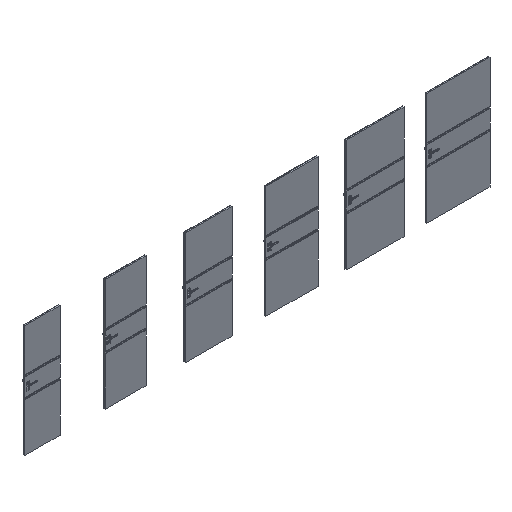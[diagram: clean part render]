
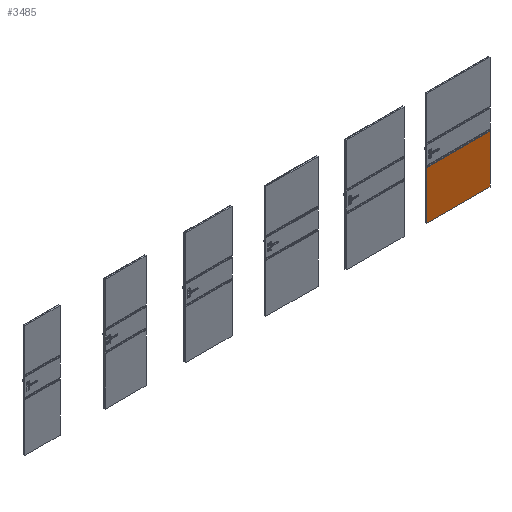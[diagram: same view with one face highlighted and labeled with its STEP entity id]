
A CAD part, isometric view. The second image highlights one B-rep face of the part: STEP entity #3485.
In plain terms, the highlighted planar face has unit normal (0, -1, 0).
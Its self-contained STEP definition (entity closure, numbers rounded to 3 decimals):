
#3485=ADVANCED_FACE('',(#5613),#4602,.F.);
#4602=PLANE('',#26092);
#5613=FACE_OUTER_BOUND('',#7075,.T.);
#7075=EDGE_LOOP('',(#11602,#11603,#11604,#11605));
#11602=ORIENTED_EDGE('',*,*,#19028,.F.);
#11603=ORIENTED_EDGE('',*,*,#19029,.T.);
#11604=ORIENTED_EDGE('',*,*,#19030,.T.);
#11605=ORIENTED_EDGE('',*,*,#19031,.F.);
#16166=VERTEX_POINT('',#40763);
#16167=VERTEX_POINT('',#40764);
#16168=VERTEX_POINT('',#40766);
#16169=VERTEX_POINT('',#40768);
#19028=EDGE_CURVE('',#16166,#16167,#21888,.T.);
#19029=EDGE_CURVE('',#16166,#16168,#21889,.T.);
#19030=EDGE_CURVE('',#16168,#16169,#21890,.T.);
#19031=EDGE_CURVE('',#16167,#16169,#21891,.T.);
#21888=LINE('',#40762,#23958);
#21889=LINE('',#40765,#23959);
#21890=LINE('',#40767,#23960);
#21891=LINE('',#40769,#23961);
#23958=VECTOR('',#30924,1.);
#23959=VECTOR('',#30925,1.);
#23960=VECTOR('',#30926,1.);
#23961=VECTOR('',#30927,1.);
#26092=AXIS2_PLACEMENT_3D('',#40770,#30928,#30929);
#30924=DIRECTION('',(1.,0.,0.));
#30925=DIRECTION('',(0.,0.,-1.));
#30926=DIRECTION('',(1.,0.,0.));
#30927=DIRECTION('',(0.,0.,-1.));
#30928=DIRECTION('',(0.,1.,0.));
#30929=DIRECTION('',(-1.,0.,0.));
#40762=CARTESIAN_POINT('',(6930.5,-39.3,868.85));
#40763=CARTESIAN_POINT('',(6930.5,-39.3,868.85));
#40764=CARTESIAN_POINT('',(8069.5,-39.3,868.85));
#40765=CARTESIAN_POINT('',(6930.5,-39.3,2027.));
#40766=CARTESIAN_POINT('',(6930.5,-39.3,0.));
#40767=CARTESIAN_POINT('',(7180.5,-39.3,0.));
#40768=CARTESIAN_POINT('',(8069.5,-39.3,0.));
#40769=CARTESIAN_POINT('',(8069.5,-39.3,2027.));
#40770=CARTESIAN_POINT('',(7180.5,-39.3,2027.));
